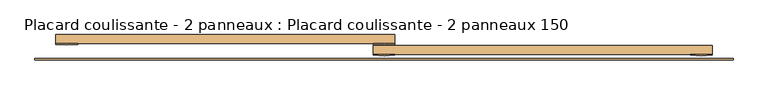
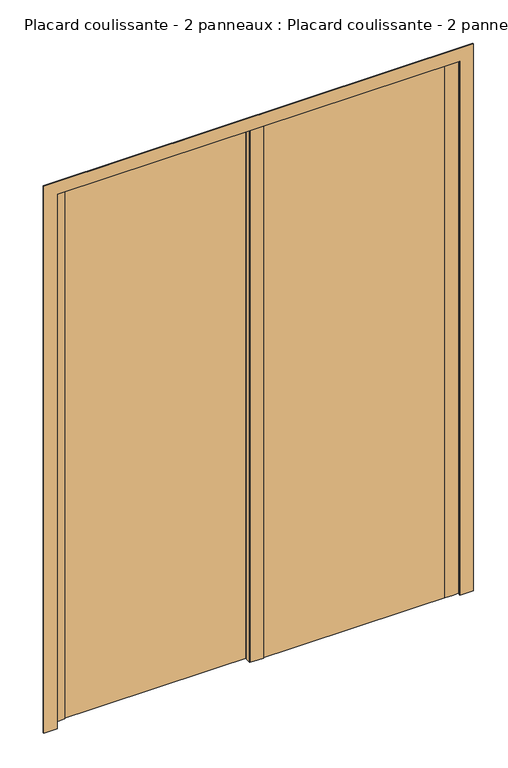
"""IFC4 building model written with IfcOpenShell, lengths in millimetres: door geometry, Placard coulissante - 2 panneaux : Placard coulissante - 2 panneaux 150."""

from ifc_helpers import new_model, si_unit, point, frame, frame_2d, origin, origin_with_axes, place, context, project, spatial, polyline, circle_curve, trimmed, segment, composite_curve, outline, extrude, source, transform, mapped, element, save


def placard_coulissante_2_panneaux_placard_coulissante_2_65cc4ebb(model_context):
    return source(origin(), model_context, "Body", "SweptSolid", [
        extrude(outline(composite_curve([segment(polyline([(750.0, -40.0), (750.0, -42.0)]), True, "CONTINUOUS"), segment(trimmed(circle_curve(frame_2d((725.0, 171.8603852)), 215.3166607), [point((750.0, -42.0))], [point((700.0, -42.0))], False, "CARTESIAN"), True, "CONTINUOUS"), segment(polyline([(700.0, -42.0), (700.0, -40.0), (750.0, -40.0)]), True, "CONTINUOUS")], self_intersect=False)), origin_with_axes(), (0.0, 0.0, 1.0), 2100.0),
        extrude(outline(composite_curve([segment(polyline([(25.0, -40.0), (25.0, -42.0)]), True, "CONTINUOUS"), segment(trimmed(circle_curve(frame_2d((0.0, 171.8603852)), 215.3166607), [point((25.0, -42.0))], [point((-25.0, -42.0))], False, "CARTESIAN"), True, "CONTINUOUS"), segment(polyline([(-25.0, -42.0), (-25.0, -40.0), (25.0, -40.0)]), True, "CONTINUOUS")], self_intersect=False)), origin_with_axes(), (0.0, 0.0, 1.0), 2100.0),
        extrude(outline(composite_curve([segment(polyline([(25.0, -15.0), (25.0, -17.0)]), True, "CONTINUOUS"), segment(trimmed(circle_curve(frame_2d((0.0, 196.8603852)), 215.3166607), [point((25.0, -17.0))], [point((-25.0, -17.0))], False, "CARTESIAN"), True, "CONTINUOUS"), segment(polyline([(-25.0, -17.0), (-25.0, -15.0), (25.0, -15.0)]), True, "CONTINUOUS")], self_intersect=False)), origin_with_axes(), (0.0, 0.0, 1.0), 2100.0),
        extrude(outline(composite_curve([segment(polyline([(-700.0, -15.0), (-700.0, -17.0)]), True, "CONTINUOUS"), segment(trimmed(circle_curve(frame_2d((-725.0, 196.8603852)), 215.3166607), [point((-700.0, -17.0))], [point((-750.0, -17.0))], False, "CARTESIAN"), True, "CONTINUOUS"), segment(polyline([(-750.0, -17.0), (-750.0, -15.0), (-700.0, -15.0)]), True, "CONTINUOUS")], self_intersect=False)), origin_with_axes(), (0.0, 0.0, 1.0), 2100.0),
        extrude(outline(polyline([(0.0, -798.0), (0.0, -748.0), (2098.0, -748.0), (2098.0, 748.0), (0.0, 748.0), (0.0, 798.0), (2148.0, 798.0), (2148.0, -798.0), (0.0, -798.0)])), frame((0.0, -53.0, 0.0), z_axis=(0.0, 1.0, 0.0), x_axis=(0.0, 0.0, 1.0)), (0.0, 0.0, 1.0), 3.0),
        extrude(outline(polyline([(750.0, -40.0), (-25.0, -40.0), (-25.0, -20.0), (750.0, -20.0), (750.0, -40.0)])), origin_with_axes(), (0.0, 0.0, 1.0), 2100.0),
        extrude(outline(polyline([(25.0, -15.0), (-750.0, -15.0), (-750.0, 5.0), (25.0, 5.0), (25.0, -15.0)])), origin_with_axes(), (0.0, 0.0, 1.0), 2100.0),
    ])


if __name__ == "__main__":
    model = new_model("IFC4")
    model_context = context("Model", 3, world=origin())
    ifc_project = project(units=[si_unit("LENGTHUNIT", "METRE", prefix="MILLI")], contexts=[model_context])
    site = spatial("IfcSite", under=ifc_project)
    building = spatial("IfcBuilding", under=site)
    placement = place(None, origin())
    placard_coulissante_2_panneaux_placard_coulissante_2_shape = placard_coulissante_2_panneaux_placard_coulissante_2_65cc4ebb(model_context)
    element("IfcDoor", 1, ObjectType="Placard coulissante - 2 panneaux : Placard coulissante - 2 panneaux 150", at=placement, inside=building, context=model_context, shape_type="MappedRepresentation", body=[
        mapped(placard_coulissante_2_panneaux_placard_coulissante_2_shape, transform((0.0, 0.0, 0.0), x_axis=(1.0, 0.0, 0.0), y_axis=(0.0, 1.0, 0.0), z_axis=(0.0, 0.0, 1.0))),
    ])
    save(model, "model.ifc")
